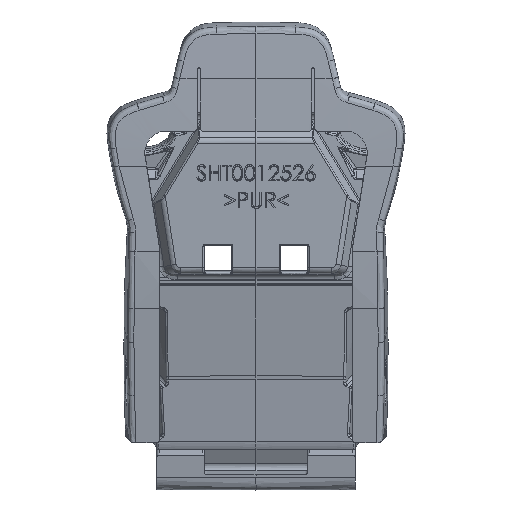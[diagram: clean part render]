
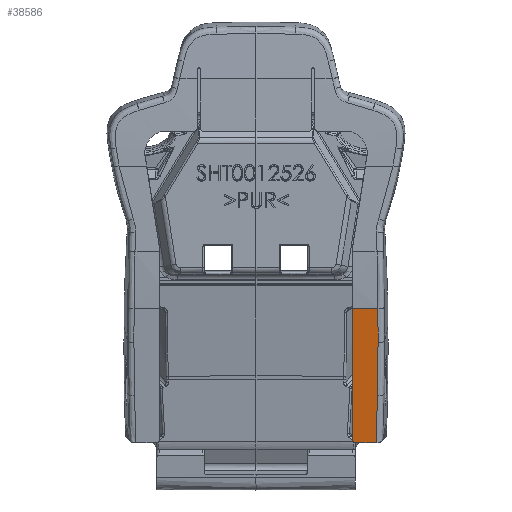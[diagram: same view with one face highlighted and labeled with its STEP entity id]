
A CAD part, left-side view. The second image highlights one B-rep face of the part: STEP entity #38586.
In plain terms, the highlighted planar face has unit normal (-0.984, -0.002, -0.181).
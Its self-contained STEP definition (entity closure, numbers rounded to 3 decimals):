
#38534=AXIS2_PLACEMENT_3D('Plane Axis2P3D',#38531,#38532,#38533) ;
#23324=CARTESIAN_POINT('Vertex',(603.63,-935.472,512.9)) ;
#23327=CARTESIAN_POINT('Line Origine',(603.595,-915.86,512.878)) ;
#23331=CARTESIAN_POINT('Vertex',(603.56,-896.248,512.857)) ;
#23597=CARTESIAN_POINT('Vertex',(587.637,-937.771,599.905)) ;
#23601=CARTESIAN_POINT('Control Point',(603.63,-935.472,512.9)) ;
#23602=CARTESIAN_POINT('Control Point',(602.031,-935.743,521.599)) ;
#23603=CARTESIAN_POINT('Control Point',(600.432,-936.007,530.297)) ;
#23604=CARTESIAN_POINT('Control Point',(598.834,-936.261,538.993)) ;
#23605=CARTESIAN_POINT('Control Point',(595.637,-936.748,556.387)) ;
#23606=CARTESIAN_POINT('Control Point',(592.438,-937.19,573.786)) ;
#23607=CARTESIAN_POINT('Control Point',(590.839,-937.398,582.488)) ;
#23608=CARTESIAN_POINT('Control Point',(589.238,-937.592,591.194)) ;
#23609=CARTESIAN_POINT('Control Point',(587.637,-937.771,599.905)) ;
#38341=CARTESIAN_POINT('Vertex',(569.7,-938.958,697.474)) ;
#38345=CARTESIAN_POINT('Control Point',(587.637,-937.771,599.905)) ;
#38346=CARTESIAN_POINT('Control Point',(584.294,-938.147,618.091)) ;
#38347=CARTESIAN_POINT('Control Point',(580.687,-938.477,637.711)) ;
#38348=CARTESIAN_POINT('Control Point',(576.958,-938.738,657.994)) ;
#38349=CARTESIAN_POINT('Control Point',(573.249,-938.906,678.172)) ;
#38350=CARTESIAN_POINT('Control Point',(569.7,-938.958,697.474)) ;
#38531=CARTESIAN_POINT('Axis2P3D Location',(558.177,-892.245,759.638)) ;
#38537=CARTESIAN_POINT('Control Point',(569.7,-938.958,697.474)) ;
#38538=CARTESIAN_POINT('Control Point',(567.414,-938.994,709.908)) ;
#38539=CARTESIAN_POINT('Control Point',(565.128,-938.988,722.342)) ;
#38540=CARTESIAN_POINT('Control Point',(562.841,-938.939,734.776)) ;
#38541=CARTESIAN_POINT('Control Point',(560.555,-938.847,747.21)) ;
#38542=CARTESIAN_POINT('Control Point',(558.269,-938.71,759.643)) ;
#38543=CARTESIAN_POINT('Vertex',(558.269,-938.71,759.643)) ;
#38546=CARTESIAN_POINT('Line Origine',(558.223,-915.478,759.64)) ;
#38550=CARTESIAN_POINT('Vertex',(558.177,-892.245,759.638)) ;
#38553=CARTESIAN_POINT('Line Origine',(580.469,-892.247,638.401)) ;
#38557=CARTESIAN_POINT('Vertex',(602.76,-892.248,517.164)) ;
#38561=CARTESIAN_POINT('Control Point',(603.56,-896.248,512.857)) ;
#38562=CARTESIAN_POINT('Control Point',(603.559,-895.871,512.856)) ;
#38563=CARTESIAN_POINT('Control Point',(603.55,-895.494,512.904)) ;
#38564=CARTESIAN_POINT('Control Point',(603.532,-895.126,512.999)) ;
#38565=CARTESIAN_POINT('Control Point',(603.477,-894.405,513.285)) ;
#38566=CARTESIAN_POINT('Control Point',(603.393,-893.778,513.737)) ;
#38567=CARTESIAN_POINT('Control Point',(603.343,-893.487,514.006)) ;
#38568=CARTESIAN_POINT('Control Point',(603.229,-892.961,514.622)) ;
#38569=CARTESIAN_POINT('Control Point',(603.096,-892.592,515.34)) ;
#38570=CARTESIAN_POINT('Control Point',(603.024,-892.446,515.73)) ;
#38571=CARTESIAN_POINT('Control Point',(602.927,-892.315,516.254)) ;
#38572=CARTESIAN_POINT('Control Point',(602.829,-892.26,516.788)) ;
#38573=CARTESIAN_POINT('Control Point',(602.806,-892.252,516.914)) ;
#38574=CARTESIAN_POINT('Control Point',(602.783,-892.248,517.039)) ;
#38575=CARTESIAN_POINT('Control Point',(602.76,-892.248,517.164)) ;
#23328=DIRECTION('Vector Direction',(-0.002,1.,-0.001)) ;
#38532=DIRECTION('Axis2P3D Direction',(-0.984,-0.002,-0.181)) ;
#38533=DIRECTION('Axis2P3D XDirection',(0.181,0.,-0.984)) ;
#38547=DIRECTION('Vector Direction',(-0.002,1.,0.)) ;
#38554=DIRECTION('Vector Direction',(0.181,0.,-0.984)) ;
#23329=VECTOR('Line Direction',#23328,1.) ;
#38548=VECTOR('Line Direction',#38547,1.) ;
#38555=VECTOR('Line Direction',#38554,1.) ;
#38578=ORIENTED_EDGE('',*,*,#23610,.F.) ;
#38579=ORIENTED_EDGE('',*,*,#38351,.F.) ;
#38580=ORIENTED_EDGE('',*,*,#38545,.T.) ;
#38581=ORIENTED_EDGE('',*,*,#38552,.T.) ;
#38582=ORIENTED_EDGE('',*,*,#38559,.T.) ;
#38583=ORIENTED_EDGE('',*,*,#38576,.F.) ;
#38584=ORIENTED_EDGE('',*,*,#23333,.F.) ;
#38586=ADVANCED_FACE('SHT0012526',(#38585),#38535,.T.) ;
#23600=B_SPLINE_CURVE_WITH_KNOTS('',5,(#23601,#23602,#23603,#23604,#23605,#23606,#23607,#23608,#23609),.UNSPECIFIED.,.F.,.U.,(6,3,6),(232.574,276.854,321.133),.UNSPECIFIED.) ;
#38344=B_SPLINE_CURVE_WITH_KNOTS('',5,(#38345,#38346,#38347,#38348,#38349,#38350),.UNSPECIFIED.,.F.,.U.,(6,6),(430.347,529.677),.UNSPECIFIED.) ;
#38536=B_SPLINE_CURVE_WITH_KNOTS('',5,(#38537,#38538,#38539,#38540,#38541,#38542),.UNSPECIFIED.,.F.,.U.,(6,6),(0.,89.396),.UNSPECIFIED.) ;
#38560=B_SPLINE_CURVE_WITH_KNOTS('',5,(#38561,#38562,#38563,#38564,#38565,#38566,#38567,#38568,#38569,#38570,#38571,#38572,#38573,#38574,#38575),.UNSPECIFIED.,.F.,.U.,(6,3,3,3,6),(0.,2.671,5.468,8.434,9.334),.UNSPECIFIED.) ;
#23333=EDGE_CURVE('',#23325,#23332,#23330,.T.) ;
#23610=EDGE_CURVE('',#23598,#23325,#23600,.F.) ;
#38351=EDGE_CURVE('',#38342,#23598,#38344,.F.) ;
#38545=EDGE_CURVE('',#38342,#38544,#38536,.T.) ;
#38552=EDGE_CURVE('',#38544,#38551,#38549,.T.) ;
#38559=EDGE_CURVE('',#38551,#38558,#38556,.T.) ;
#38576=EDGE_CURVE('',#23332,#38558,#38560,.T.) ;
#38577=EDGE_LOOP('',(#38578,#38579,#38580,#38581,#38582,#38583,#38584)) ;
#38585=FACE_OUTER_BOUND('',#38577,.T.) ;
#23330=LINE('Line',#23327,#23329) ;
#38549=LINE('Line',#38546,#38548) ;
#38556=LINE('Line',#38553,#38555) ;
#38535=PLANE('Plane',#38534) ;
#23325=VERTEX_POINT('',#23324) ;
#23332=VERTEX_POINT('',#23331) ;
#23598=VERTEX_POINT('',#23597) ;
#38342=VERTEX_POINT('',#38341) ;
#38544=VERTEX_POINT('',#38543) ;
#38551=VERTEX_POINT('',#38550) ;
#38558=VERTEX_POINT('',#38557) ;
